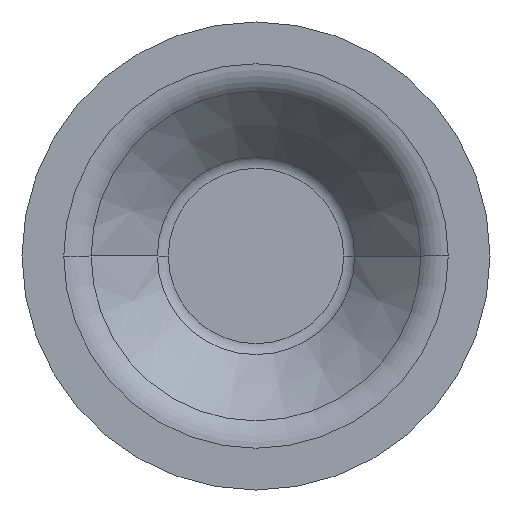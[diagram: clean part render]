
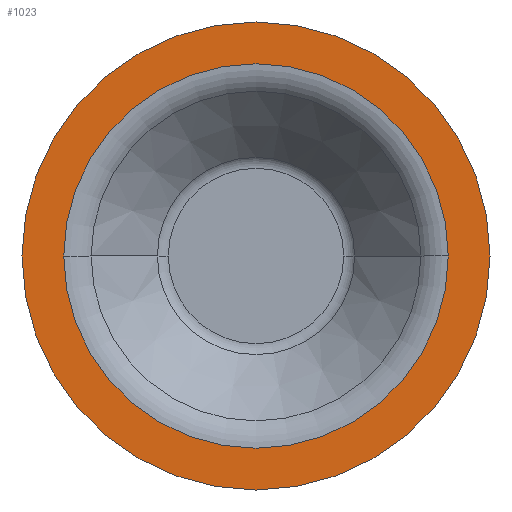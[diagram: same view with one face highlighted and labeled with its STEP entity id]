
A CAD part, front view. The second image highlights one B-rep face of the part: STEP entity #1023.
In plain terms, the highlighted planar face has unit normal (0, -1, 0).
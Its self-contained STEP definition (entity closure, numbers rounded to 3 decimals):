
#72 = DIRECTION ( 'NONE',  ( 0., -1., 0. ) ) ;
#82 = DIRECTION ( 'NONE',  ( -1., 0., 0. ) ) ;
#103 = DIRECTION ( 'NONE',  ( -1., 0., 0. ) ) ;
#166 = ORIENTED_EDGE ( 'NONE', *, *, #903, .T. ) ;
#187 = CARTESIAN_POINT ( 'NONE',  ( 0., -15., 0. ) ) ;
#223 = CARTESIAN_POINT ( 'NONE',  ( 31.5, -15., 0. ) ) ;
#226 = CARTESIAN_POINT ( 'NONE',  ( 0., -15., 0. ) ) ;
#253 = CARTESIAN_POINT ( 'NONE',  ( -25.88, -15., 0. ) ) ;
#280 = AXIS2_PLACEMENT_3D ( 'NONE', #226, #1235, #103 ) ;
#283 = VERTEX_POINT ( 'NONE', #223 ) ;
#326 = CARTESIAN_POINT ( 'NONE',  ( 0., -15., 0. ) ) ;
#353 = PLANE ( 'NONE',  #711 ) ;
#393 = AXIS2_PLACEMENT_3D ( 'NONE', #326, #72, #463 ) ;
#463 = DIRECTION ( 'NONE',  ( 1., 0., 0. ) ) ;
#481 = EDGE_CURVE ( 'NONE', #529, #565, #1284, .T. ) ;
#529 = VERTEX_POINT ( 'NONE', #616 ) ;
#565 = VERTEX_POINT ( 'NONE', #253 ) ;
#599 = FACE_BOUND ( 'NONE', #1311, .T. ) ;
#616 = CARTESIAN_POINT ( 'NONE',  ( 25.88, -15., 0. ) ) ;
#622 = DIRECTION ( 'NONE',  ( 1., 0., 0. ) ) ;
#694 = AXIS2_PLACEMENT_3D ( 'NONE', #1624, #1265, #1290 ) ;
#711 = AXIS2_PLACEMENT_3D ( 'NONE', #1356, #1608, #622 ) ;
#717 = CIRCLE ( 'NONE', #694, 31.5 ) ;
#734 = CIRCLE ( 'NONE', #393, 31.5 ) ;
#737 = FACE_OUTER_BOUND ( 'NONE', #910, .T. ) ;
#874 = ORIENTED_EDGE ( 'NONE', *, *, #1447, .F. ) ;
#903 = EDGE_CURVE ( 'NONE', #283, #1380, #734, .T. ) ;
#910 = EDGE_LOOP ( 'NONE', ( #166, #1184 ) ) ;
#928 = DIRECTION ( 'NONE',  ( 0., -1., 0. ) ) ;
#1023 = ADVANCED_FACE ( 'NONE', ( #599, #737 ), #353, .T. ) ;
#1154 = CARTESIAN_POINT ( 'NONE',  ( -31.5, -15., 0. ) ) ;
#1184 = ORIENTED_EDGE ( 'NONE', *, *, #1302, .T. ) ;
#1235 = DIRECTION ( 'NONE',  ( 0., -1., 0. ) ) ;
#1265 = DIRECTION ( 'NONE',  ( 0., -1., 0. ) ) ;
#1284 = CIRCLE ( 'NONE', #280, 25.88 ) ;
#1290 = DIRECTION ( 'NONE',  ( 1., 0., 0. ) ) ;
#1302 = EDGE_CURVE ( 'NONE', #1380, #283, #717, .T. ) ;
#1311 = EDGE_LOOP ( 'NONE', ( #874, #1526 ) ) ;
#1324 = AXIS2_PLACEMENT_3D ( 'NONE', #187, #928, #82 ) ;
#1356 = CARTESIAN_POINT ( 'NONE',  ( 31.5, -15., 0. ) ) ;
#1379 = CIRCLE ( 'NONE', #1324, 25.88 ) ;
#1380 = VERTEX_POINT ( 'NONE', #1154 ) ;
#1447 = EDGE_CURVE ( 'NONE', #565, #529, #1379, .T. ) ;
#1526 = ORIENTED_EDGE ( 'NONE', *, *, #481, .F. ) ;
#1608 = DIRECTION ( 'NONE',  ( 0., -1., 0. ) ) ;
#1624 = CARTESIAN_POINT ( 'NONE',  ( 0., -15., 0. ) ) ;
